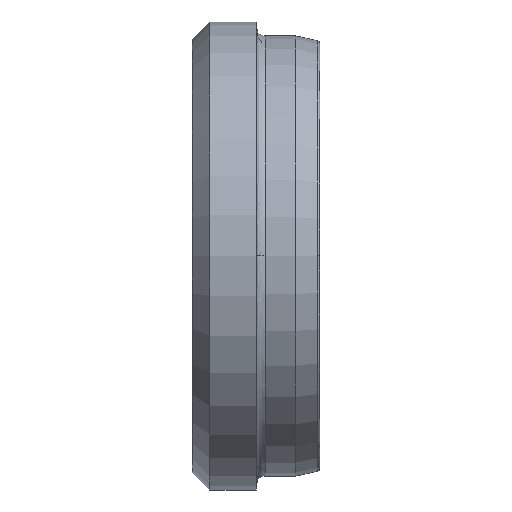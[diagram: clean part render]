
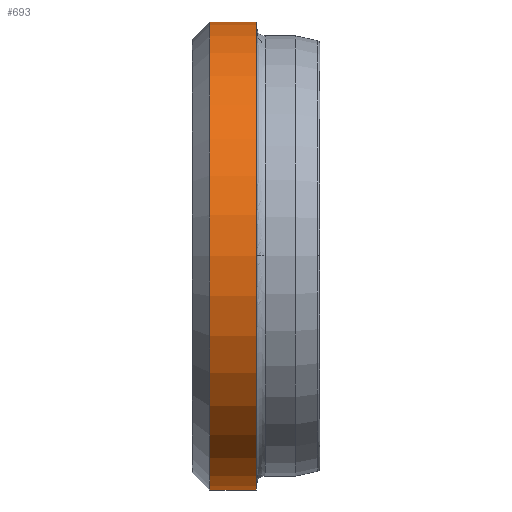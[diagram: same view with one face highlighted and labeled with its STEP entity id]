
A CAD part, top view. The second image highlights one B-rep face of the part: STEP entity #693.
In plain terms, the highlighted cylindrical face has radius 24 mm (diameter 48 mm), a partial arc.
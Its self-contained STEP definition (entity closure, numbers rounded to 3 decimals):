
#652=CARTESIAN_POINT('',(-5.037,-16.882,0.0));
#653=DIRECTION('',(1.0,0.0,0.0));
#654=DIRECTION('',(0.0,1.0,0.0));
#655=AXIS2_PLACEMENT_3D('',#652,#653,#654);
#656=CYLINDRICAL_SURFACE('',#655,24.0);
#657=CARTESIAN_POINT('',(-6.525,7.118,0.0));
#658=VERTEX_POINT('',#657);
#659=CARTESIAN_POINT('',(-1.75,7.118,0.0));
#660=VERTEX_POINT('',#659);
#661=CARTESIAN_POINT('',(-6.525,7.118,0.0));
#662=DIRECTION('',(1.0,0.0,0.0));
#663=VECTOR('',#662,4.775);
#664=LINE('',#661,#663);
#665=EDGE_CURVE('',#658,#660,#664,.T.);
#666=ORIENTED_EDGE('',*,*,#665,.F.);
#667=CARTESIAN_POINT('',(-6.525,-40.882,0.));
#668=VERTEX_POINT('',#667);
#669=CARTESIAN_POINT('',(-6.525,-16.882,0.0));
#670=DIRECTION('',(-1.0,0.0,0.0));
#671=DIRECTION('',(0.0,-1.0,0.0));
#672=AXIS2_PLACEMENT_3D('',#669,#670,#671);
#673=CIRCLE('',#672,24.0);
#674=EDGE_CURVE('',#668,#658,#673,.T.);
#675=ORIENTED_EDGE('',*,*,#674,.F.);
#676=CARTESIAN_POINT('',(-1.75,-40.882,0.));
#677=VERTEX_POINT('',#676);
#678=CARTESIAN_POINT('',(-1.75,-40.882,0.));
#679=DIRECTION('',(-1.0,0.0,0.0));
#680=VECTOR('',#679,4.775);
#681=LINE('',#678,#680);
#682=EDGE_CURVE('',#677,#668,#681,.T.);
#683=ORIENTED_EDGE('',*,*,#682,.F.);
#684=CARTESIAN_POINT('',(-1.75,-16.882,0.0));
#685=DIRECTION('',(1.0,0.0,0.0));
#686=DIRECTION('',(0.0,1.0,0.0));
#687=AXIS2_PLACEMENT_3D('',#684,#685,#686);
#688=CIRCLE('',#687,24.0);
#689=EDGE_CURVE('',#660,#677,#688,.T.);
#690=ORIENTED_EDGE('',*,*,#689,.F.);
#691=EDGE_LOOP('',(#666,#675,#683,#690));
#692=FACE_OUTER_BOUND('',#691,.T.);
#693=ADVANCED_FACE('',(#692),#656,.T.);
